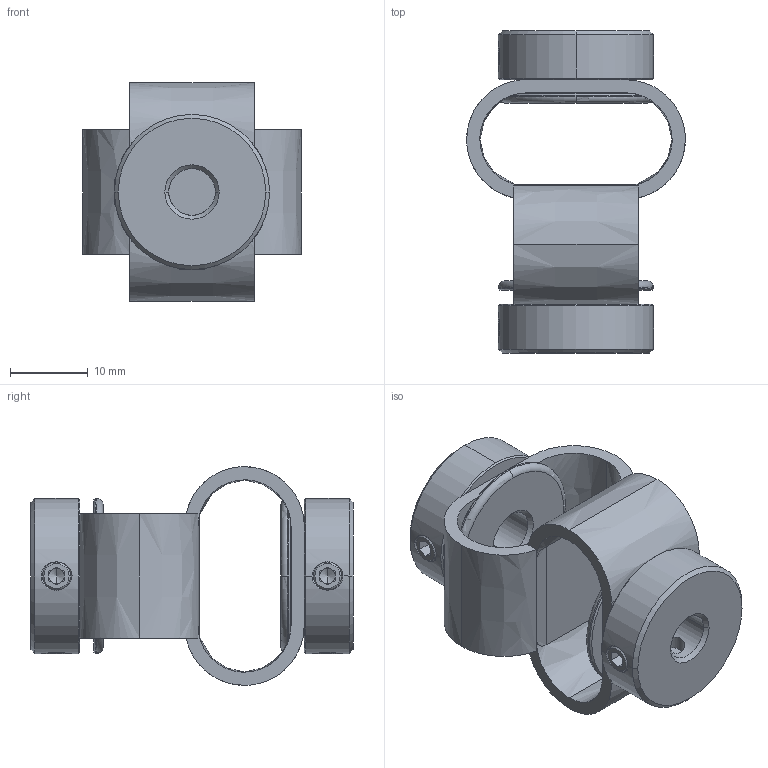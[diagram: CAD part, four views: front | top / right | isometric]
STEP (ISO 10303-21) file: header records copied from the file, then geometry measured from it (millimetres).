
FILE_DESCRIPTION (( 'STEP AP203' ), '1' );
FILE_NAME ('LS-D-D27L40-6-6.35.STEP', '2021-10-28T06:28:05', ( '' ), ( '' ), 'SwSTEP 2.0', 'SolidWorks 2018', '' );
FILE_SCHEMA (( 'CONFIG_CONTROL_DESIGN' ));
Length unit declared in the file: millimetre
Products named in the file (1): LS-D-D27L40-6-6.35
Bounding box: 28.2 x 41.54 x 28.2 mm (x, y, z)
Volume: 7279.6 mm3; surface area: 6694.4 mm2
Topology: 1 solids, 1 shells, 190 faces, 490 edges, 306 vertices
Faces by surface type: plane 86, cone 54, cylinder 30, bspline 16, torus 4
Entity records: 7775 total; most frequent: CARTESIAN_POINT 3217, ORIENTED_EDGE 964, DIRECTION 886, EDGE_CURVE 482, AXIS2_PLACEMENT_3D 345, VERTEX_POINT 306, EDGE_LOOP 218, VECTOR 196
